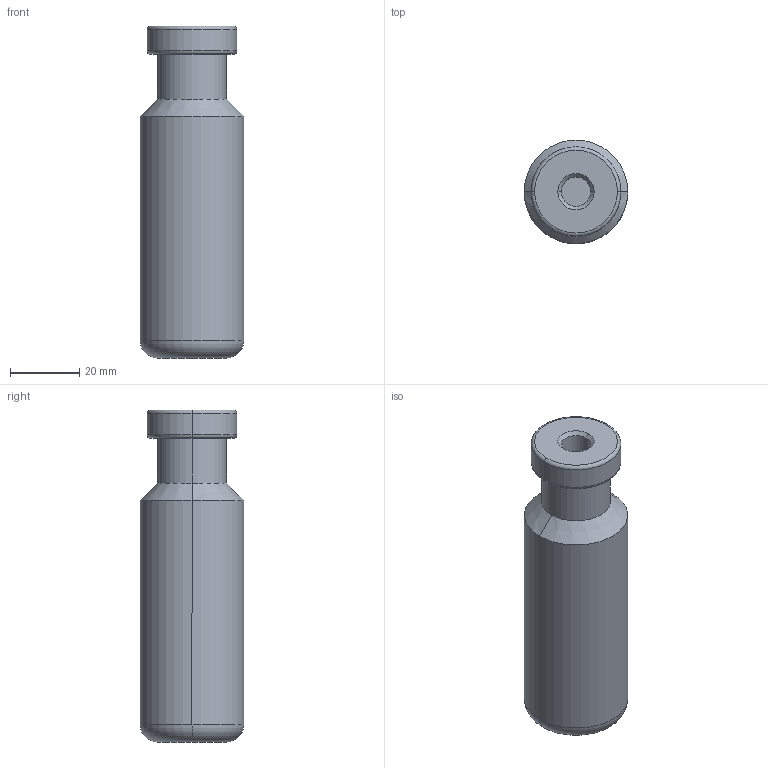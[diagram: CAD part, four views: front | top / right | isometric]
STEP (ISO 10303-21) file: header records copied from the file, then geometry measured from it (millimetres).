
FILE_DESCRIPTION(('CATIA V5 STEP Exchange'),'2;1');
FILE_NAME('D:\姚明阳\1、工装图纸\AGZ054 轻卡气悬浮阀芯组装工具\AGZ054 设计文件（可编辑版本）\AGZ54.01_V1.stp','2024-11-20T07:52:54+00:00',('none'),('none'),'CATIA Version 5 Release 21 GA (IN-10)','CATIA V5 STEP AP214','none');
FILE_SCHEMA(('AUTOMOTIVE_DESIGN { 1 0 10303 214 1 1 1 1 }'));
Length unit declared in the file: millimetre
Products named in the file (1): Part1.1
Bounding box: 30 x 30 x 96.2 mm (x, y, z)
Volume: 59207.1 mm3; surface area: 10115.6 mm2
Topology: 1 solids, 1 shells, 22 faces, 42 edges, 24 vertices
Faces by surface type: cylinder 8, torus 6, plane 4, cone 4
Entity records: 547 total; most frequent: CARTESIAN_POINT 85, ORIENTED_EDGE 84, DIRECTION 78, AXIS2_PLACEMENT_3D 49, EDGE_CURVE 42, CIRCLE 30, EDGE_LOOP 24, VERTEX_POINT 24
